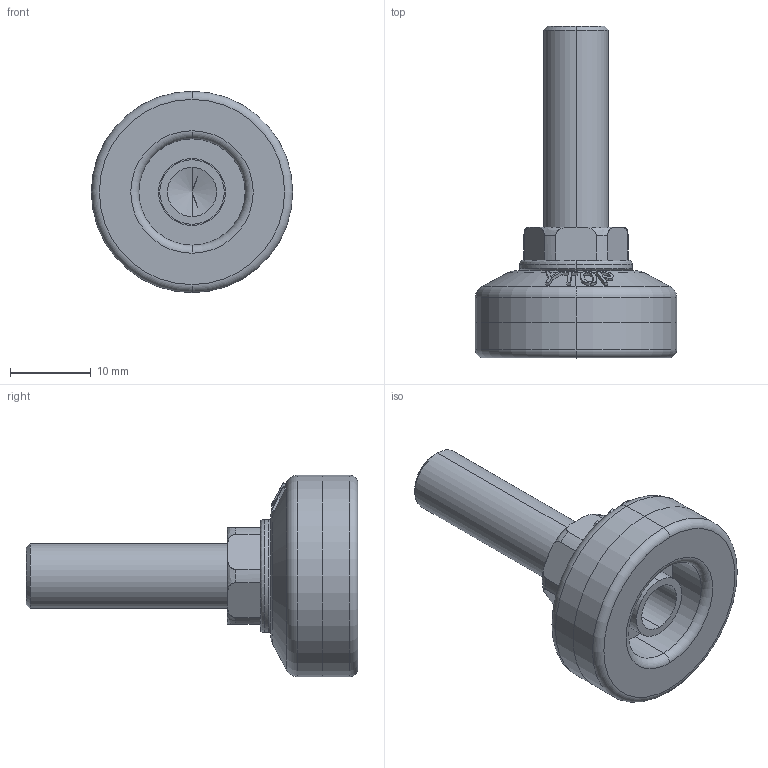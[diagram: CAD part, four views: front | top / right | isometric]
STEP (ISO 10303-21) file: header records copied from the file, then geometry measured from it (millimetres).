
FILE_DESCRIPTION (( 'STEP AP203' ), '1' );
FILE_NAME ('Q-25-825-PA.STEP', '2020-09-11T06:31:11', ( '' ), ( '' ), 'SwSTEP 2.0', 'SolidWorks 2016', '' );
FILE_SCHEMA (( 'CONFIG_CONTROL_DESIGN' ));
Length unit declared in the file: millimetre
Products named in the file (4): S倰覃誹褐_25菁菜; 穩諉蹟裝M8炵蹈_M8X25; S倰覃誹褐_25裔赽; Q-25-825-PA
Assembly tree (3 placements, depth 2):
  Q-25-825-PA
    S倰覃誹褐_25菁菜
    S倰覃誹褐_25裔赽
    穩諉蹟裝M8炵蹈_M8X25
Bounding box: 25 x 41.2 x 25 mm (x, y, z)
Volume: 5251.1 mm3; surface area: 5363.8 mm2
Topology: 3 solids, 3 shells, 145 faces, 347 edges, 219 vertices
Faces by surface type: bspline 48, plane 35, cylinder 32, torus 16, cone 14
Entity records: 8626 total; most frequent: CARTESIAN_POINT 5218, ORIENTED_EDGE 690, DIRECTION 507, EDGE_CURVE 345, VERTEX_POINT 219, AXIS2_PLACEMENT_3D 211, EDGE_LOOP 162, B_SPLINE_CURVE_WITH_KNOTS 148
